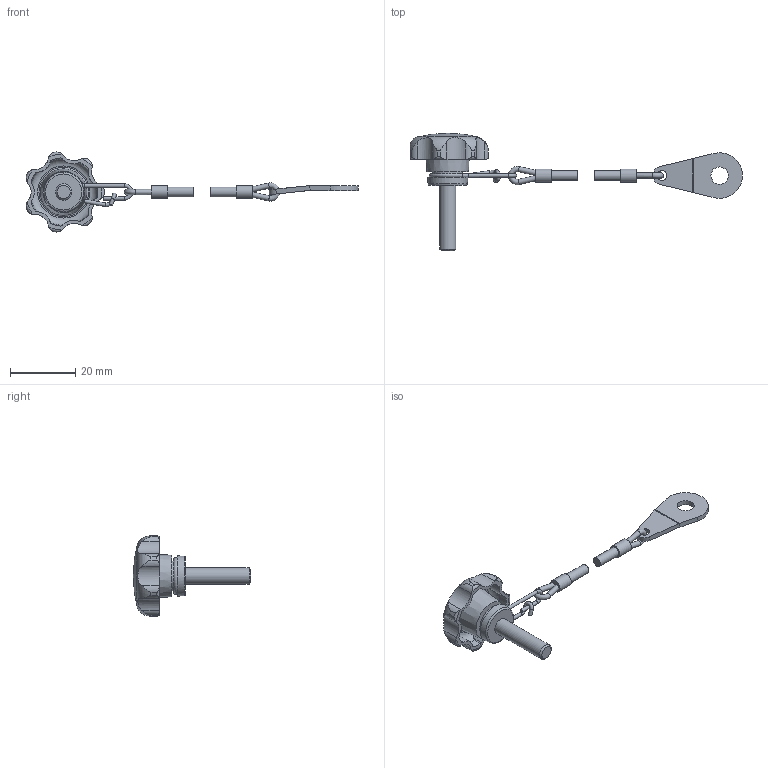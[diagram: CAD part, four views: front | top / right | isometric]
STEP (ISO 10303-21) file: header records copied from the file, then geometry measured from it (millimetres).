
FILE_DESCRIPTION( ( 'STEP AP203' ), '1' );
FILE_NAME( 'C:/Temp/Ganter_Step_05_03_2020/data/2_2/gn_6336_13/gn_6336_13_2/Star knob GN 6336.13-25-M5-20-H.stp', '2020-03-05T12:11:27', ( 'License CC BY-ND 4.0' ), ( 'CADENAS' ), ' ', 'PARTsolutions', ' ' );
FILE_SCHEMA( ( 'CONFIG_CONTROL_DESIGN' ) );
Length unit declared in the file: millimetre
Products named in the file (3): Star knob GN 6336.13-25-M5-20-H; _Star knob GN 6336.13-25-M5-20-H 6; _Star knob GN 111.2-200-14 h2
Assembly tree (2 placements, depth 2):
  Star knob GN 6336.13-25-M5-20-H
    _Star knob GN 6336.13-25-M5-20-H 6
    _Star knob GN 111.2-200-14 h2
Bounding box: 101.94 x 36 x 24.58 mm (x, y, z)
Volume: 4124.8 mm3; surface area: 3784.1 mm2
Topology: 2 solids, 2 shells, 137 faces, 376 edges, 244 vertices
Faces by surface type: cylinder 73, plane 32, torus 20, cone 11, sphere 1
Full cylindrical faces by diameter (mm): 1.1 x6, 1.6 x4, 3 x3, 4 x2, 5 x1, 5.3 x1, 9.1 x1
Entity records: 4849 total; most frequent: CARTESIAN_POINT 1530, DIRECTION 667, ORIENTED_EDGE 636, EDGE_CURVE 318, AXIS2_PLACEMENT_3D 287, VERTEX_POINT 230, EDGE_LOOP 189, FACE_OUTER_BOUND 167
